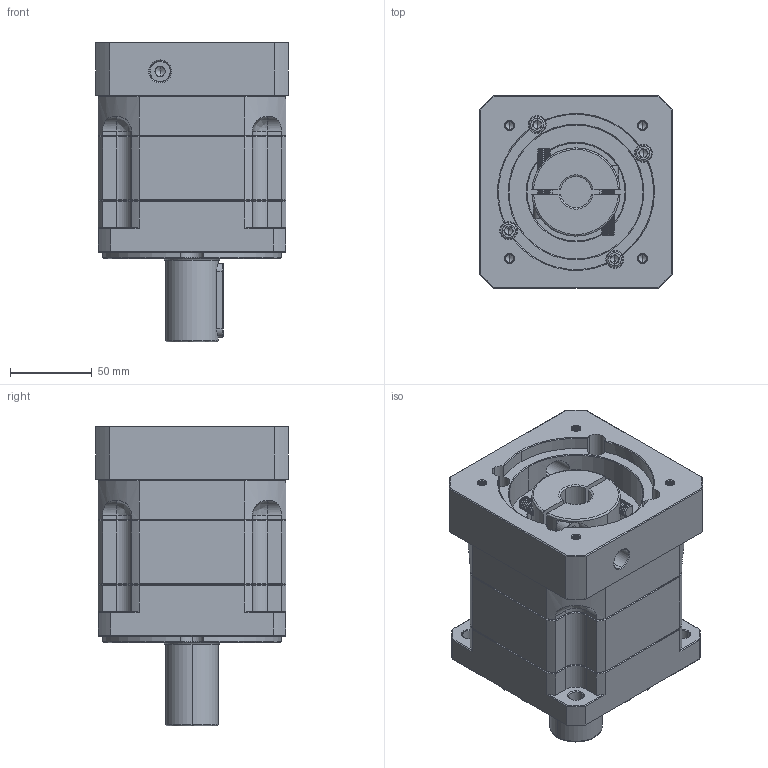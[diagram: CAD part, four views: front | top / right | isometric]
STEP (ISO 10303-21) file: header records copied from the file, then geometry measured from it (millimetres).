
FILE_DESCRIPTION (( 'STEP AP214' ), '1' );
FILE_NAME ('ZB115A-D32-L1-19-95-115-M6.step', '2023-03-02T08:59:29', ( '' ), ( 'Microsoft' ), 'SwSTEP 2.0', 'SolidWorks 2016', '' );
FILE_SCHEMA (( 'AUTOMOTIVE_DESIGN' ));
Length unit declared in the file: millimetre
Products named in the file (1): ZB115A-D32-L1-19-95-115-M6
Bounding box: 118 x 118 x 183.5 mm (x, y, z)
Volume: 1482512.6 mm3; surface area: 162085.8 mm2
Topology: 6 solids, 6 shells, 2105 faces, 5467 edges, 3453 vertices
Faces by surface type: plane 964, cylinder 412, cone 384, bspline 345
Entity records: 110792 total; most frequent: CARTESIAN_POINT 38887, ORIENTED_EDGE 10866, DIRECTION 8966, EDGE_CURVE 5433, VERTEX_POINT 3453, VECTOR 3362, LINE 3362, AXIS2_PLACEMENT_3D 2802
